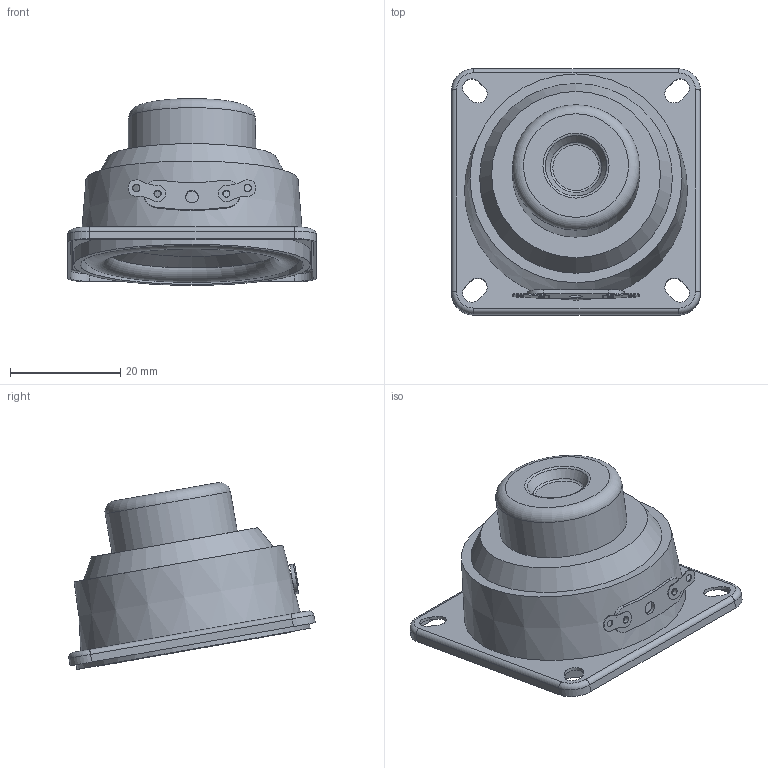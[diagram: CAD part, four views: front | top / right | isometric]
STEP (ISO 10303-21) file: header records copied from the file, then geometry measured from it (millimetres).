
FILE_DESCRIPTION(/* description */ ('STEP AP242 Edition 2','CAx-IF Rec.Pracs.---Representation and Presentation of Product Manufacturing Information (PMI)---4.0---2014-10-13','CAx-IF Rec.Pracs.---3D Tessellated Geometry---0.4---2014-09-14','2;1','CAx-IF Rec.Pracs.---User Defined Attributes---1.5---2016-08-15'),/* implementation_level */ '2;1');
FILE_NAME(/* name */ 'Assy_ForMFG - Speaker',/* time_stamp */ '2026-05-15T19:56:57Z',/* author */ (''),/* organization */ (''),/* preprocessor_version */ 'ST-DEVELOPER v20',/* originating_system */ 'ONSHAPE BY PTC INC, 1.215',/* authorisation */ ' ');
FILE_SCHEMA (('AP242_MANAGED_MODEL_BASED_3D_ENGINEERING_MIM_LF { 1 0 10303 442 3 1 4 }'));
Length unit declared in the file: metre
Products named in the file (1): Speaker
Bounding box: 45.2 x 44.77 x 33.93 mm (x, y, z)
Volume: 24195.1 mm3; surface area: 8140.1 mm2
Topology: 1 solids, 1 shells, 94 faces, 239 edges, 154 vertices
Faces by surface type: cylinder 45, plane 31, torus 14, cone 3, sphere 1
Full cylindrical faces by diameter (mm): 1.3 x4, 2.302 x1, 23.1 x1, 29.8 x1, 40.7 x1, 43 x1
Entity records: 2726 total; most frequent: DIRECTION 512, CARTESIAN_POINT 457, ORIENTED_EDGE 414, AXIS2_PLACEMENT_3D 214, EDGE_CURVE 207, VERTEX_POINT 141, EDGE_LOOP 138, FACE_BOUND 138
